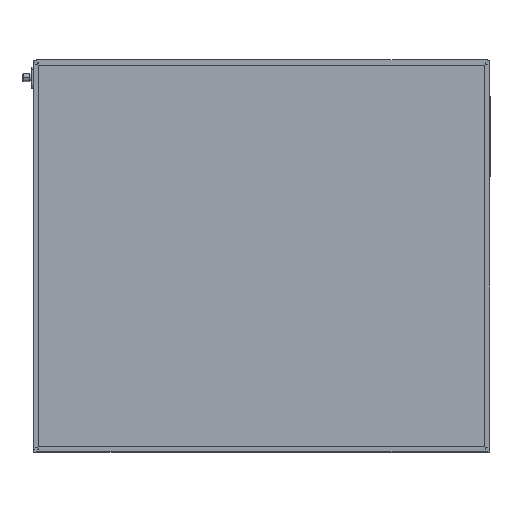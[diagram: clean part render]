
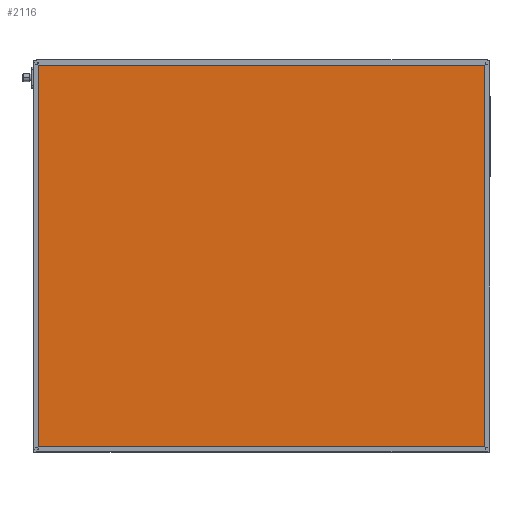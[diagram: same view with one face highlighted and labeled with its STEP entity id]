
A CAD part, top view. The second image highlights one B-rep face of the part: STEP entity #2116.
In plain terms, the highlighted planar face has unit normal (0, 0, 1).
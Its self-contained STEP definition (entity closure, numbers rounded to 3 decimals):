
#1096 = VERTEX_POINT ( 'NONE', #6286 ) ;
#2116 = ADVANCED_FACE ( 'NONE', ( #8898 ), #3661, .F. ) ;
#2328 = CARTESIAN_POINT ( 'NONE',  ( 4., 0., 41.85 ) ) ;
#2586 = LINE ( 'NONE', #2328, #3196 ) ;
#3196 = VECTOR ( 'NONE', #15739, 1000. ) ;
#3661 = PLANE ( 'NONE',  #3725 ) ;
#3725 = AXIS2_PLACEMENT_3D ( 'NONE', #8981, #14284, #7679 ) ;
#4326 = ORIENTED_EDGE ( 'NONE', *, *, #12269, .T. ) ;
#4444 = CARTESIAN_POINT ( 'NONE',  ( 4., 596., 41.85 ) ) ;
#4894 = VECTOR ( 'NONE', #11363, 1000. ) ;
#5089 = VERTEX_POINT ( 'NONE', #9879 ) ;
#6286 = CARTESIAN_POINT ( 'NONE',  ( 4., 4., 41.85 ) ) ;
#7185 = LINE ( 'NONE', #8310, #10986 ) ;
#7440 = EDGE_LOOP ( 'NONE', ( #4326, #13820, #8348, #16958 ) ) ;
#7679 = DIRECTION ( 'NONE',  ( -1., 0., 0. ) ) ;
#8310 = CARTESIAN_POINT ( 'NONE',  ( 0., 596., 41.85 ) ) ;
#8348 = ORIENTED_EDGE ( 'NONE', *, *, #12688, .T. ) ;
#8835 = LINE ( 'NONE', #14217, #4894 ) ;
#8898 = FACE_OUTER_BOUND ( 'NONE', #7440, .T. ) ;
#8981 = CARTESIAN_POINT ( 'NONE',  ( 0., 0., 41.85 ) ) ;
#9149 = CARTESIAN_POINT ( 'NONE',  ( 696., 0., 41.85 ) ) ;
#9879 = CARTESIAN_POINT ( 'NONE',  ( 696., 596., 41.85 ) ) ;
#10255 = CARTESIAN_POINT ( 'NONE',  ( 696., 4., 41.85 ) ) ;
#10659 = EDGE_CURVE ( 'NONE', #5089, #13568, #7185, .T. ) ;
#10986 = VECTOR ( 'NONE', #14830, 1000. ) ;
#11363 = DIRECTION ( 'NONE',  ( 1., 0., 0. ) ) ;
#11851 = DIRECTION ( 'NONE',  ( 0., 1., 0. ) ) ;
#12269 = EDGE_CURVE ( 'NONE', #12684, #5089, #15666, .T. ) ;
#12684 = VERTEX_POINT ( 'NONE', #10255 ) ;
#12688 = EDGE_CURVE ( 'NONE', #13568, #1096, #2586, .T. ) ;
#13568 = VERTEX_POINT ( 'NONE', #4444 ) ;
#13820 = ORIENTED_EDGE ( 'NONE', *, *, #10659, .T. ) ;
#14217 = CARTESIAN_POINT ( 'NONE',  ( 0., 4., 41.85 ) ) ;
#14284 = DIRECTION ( 'NONE',  ( 0., 0., -1. ) ) ;
#14602 = EDGE_CURVE ( 'NONE', #1096, #12684, #8835, .T. ) ;
#14830 = DIRECTION ( 'NONE',  ( -1., 0., 0. ) ) ;
#14875 = VECTOR ( 'NONE', #11851, 1000. ) ;
#15666 = LINE ( 'NONE', #9149, #14875 ) ;
#15739 = DIRECTION ( 'NONE',  ( 0., -1., 0. ) ) ;
#16958 = ORIENTED_EDGE ( 'NONE', *, *, #14602, .T. ) ;
